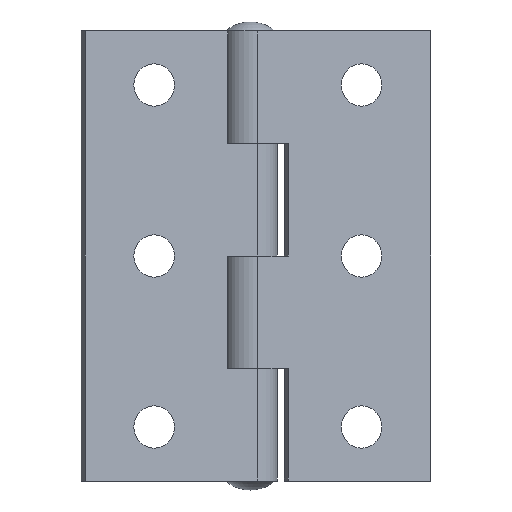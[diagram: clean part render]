
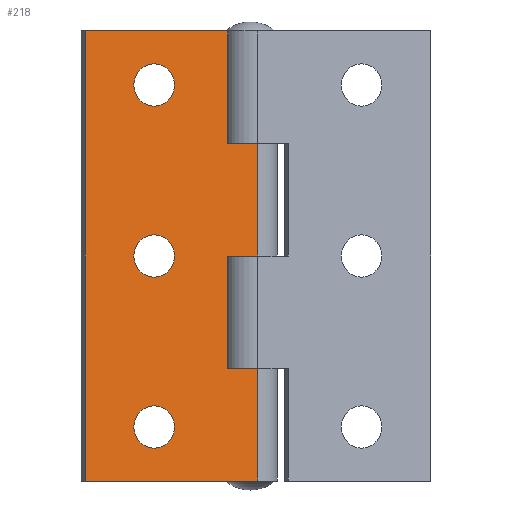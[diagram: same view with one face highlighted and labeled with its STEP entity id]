
A CAD part, front view. The second image highlights one B-rep face of the part: STEP entity #218.
In plain terms, the highlighted planar face has unit normal (0.279, -0.96, 0) as drawn and (0, -1, 0) by its records, which use the part's own axes.
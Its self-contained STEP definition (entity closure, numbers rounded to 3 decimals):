
#7 = CARTESIAN_POINT ( 'NONE',  ( -8.092, -2.333, 3.65 ) ) ;
#9 = ORIENTED_EDGE ( 'NONE', *, *, #223, .F. ) ;
#10 = VERTEX_POINT ( 'NONE', #368 ) ;
#11 = EDGE_LOOP ( 'NONE', ( #24, #21, #175, #173, #19, #170, #167, #166, #9, #27 ) ) ;
#12 = EDGE_LOOP ( 'NONE', ( #174, #26 ) ) ;
#13 = ORIENTED_EDGE ( 'NONE', *, *, #18, .T. ) ;
#17 = VERTEX_POINT ( 'NONE', #502 ) ;
#18 = EDGE_CURVE ( 'NONE', #270, #271, #496, .T. ) ;
#19 = ORIENTED_EDGE ( 'NONE', *, *, #20, .F. ) ;
#20 = EDGE_CURVE ( 'NONE', #17, #221, #497, .T. ) ;
#21 = ORIENTED_EDGE ( 'NONE', *, *, #22, .F. ) ;
#22 = EDGE_CURVE ( 'NONE', #35, #23, #488, .T. ) ;
#23 = VERTEX_POINT ( 'NONE', #431 ) ;
#24 = ORIENTED_EDGE ( 'NONE', *, *, #214, .T. ) ;
#25 = VERTEX_POINT ( 'NONE', #430 ) ;
#26 = ORIENTED_EDGE ( 'NONE', *, *, #284, .T. ) ;
#27 = ORIENTED_EDGE ( 'NONE', *, *, #28, .T. ) ;
#28 = EDGE_CURVE ( 'NONE', #224, #10, #429, .T. ) ;
#34 = ORIENTED_EDGE ( 'NONE', *, *, #157, .T. ) ;
#35 = VERTEX_POINT ( 'NONE', #566 ) ;
#44 = VERTEX_POINT ( 'NONE', #549 ) ;
#48 = VERTEX_POINT ( 'NONE', #545 ) ;
#49 = EDGE_CURVE ( 'NONE', #283, #48, #624, .T. ) ;
#157 = EDGE_CURVE ( 'NONE', #271, #270, #581, .T. ) ;
#165 = EDGE_CURVE ( 'NONE', #171, #168, #853, .T. ) ;
#166 = ORIENTED_EDGE ( 'NONE', *, *, #180, .T. ) ;
#167 = ORIENTED_EDGE ( 'NONE', *, *, #165, .T. ) ;
#168 = VERTEX_POINT ( 'NONE', #963 ) ;
#169 = EDGE_LOOP ( 'NONE', ( #177, #172 ) ) ;
#170 = ORIENTED_EDGE ( 'NONE', *, *, #179, .T. ) ;
#171 = VERTEX_POINT ( 'NONE', #962 ) ;
#172 = ORIENTED_EDGE ( 'NONE', *, *, #49, .T. ) ;
#173 = ORIENTED_EDGE ( 'NONE', *, *, #220, .T. ) ;
#174 = ORIENTED_EDGE ( 'NONE', *, *, #178, .T. ) ;
#175 = ORIENTED_EDGE ( 'NONE', *, *, #219, .T. ) ;
#176 = EDGE_LOOP ( 'NONE', ( #13, #34 ) ) ;
#177 = ORIENTED_EDGE ( 'NONE', *, *, #222, .T. ) ;
#178 = EDGE_CURVE ( 'NONE', #44, #285, #875, .T. ) ;
#179 = EDGE_CURVE ( 'NONE', #17, #171, #870, .T. ) ;
#180 = EDGE_CURVE ( 'NONE', #168, #181, #850, .T. ) ;
#181 = VERTEX_POINT ( 'NONE', #846 ) ;
#214 = EDGE_CURVE ( 'NONE', #10, #23, #835, .T. ) ;
#218 = ADVANCED_FACE ( 'NONE', ( #831, #830, #829, #828 ), #827, .F. ) ;
#219 = EDGE_CURVE ( 'NONE', #35, #25, #825, .T. ) ;
#220 = EDGE_CURVE ( 'NONE', #25, #221, #904, .T. ) ;
#221 = VERTEX_POINT ( 'NONE', #900 ) ;
#222 = EDGE_CURVE ( 'NONE', #48, #283, #899, .T. ) ;
#223 = EDGE_CURVE ( 'NONE', #224, #181, #894, .T. ) ;
#224 = VERTEX_POINT ( 'NONE', #890 ) ;
#270 = VERTEX_POINT ( 'NONE', #972 ) ;
#271 = VERTEX_POINT ( 'NONE', #967 ) ;
#283 = VERTEX_POINT ( 'NONE', #7 ) ;
#284 = EDGE_CURVE ( 'NONE', #285, #44, #1031, .T. ) ;
#285 = VERTEX_POINT ( 'NONE', #1062 ) ;
#368 = CARTESIAN_POINT ( 'NONE',  ( 0.408, -2.333, 37.5 ) ) ;
#426 = DIRECTION ( 'NONE',  ( -1., 0., 0. ) ) ;
#427 = VECTOR ( 'NONE', #426, 1000. ) ;
#428 = CARTESIAN_POINT ( 'NONE',  ( 3.908, -2.333, 37.5 ) ) ;
#429 = LINE ( 'NONE', #428, #427 ) ;
#430 = CARTESIAN_POINT ( 'NONE',  ( -16.092, -2.333, 0. ) ) ;
#431 = CARTESIAN_POINT ( 'NONE',  ( 0.408, -2.333, 50. ) ) ;
#432 = DIRECTION ( 'NONE',  ( 1., 0., 0. ) ) ;
#433 = VECTOR ( 'NONE', #432, 1000. ) ;
#487 = CARTESIAN_POINT ( 'NONE',  ( 3.908, -2.333, 50. ) ) ;
#488 = LINE ( 'NONE', #487, #433 ) ;
#489 = DIRECTION ( 'NONE',  ( 0., 0., -1. ) ) ;
#490 = VECTOR ( 'NONE', #489, 1000. ) ;
#491 = CARTESIAN_POINT ( 'NONE',  ( 3.908, -2.333, 50. ) ) ;
#492 = DIRECTION ( 'NONE',  ( 0., 0., 1. ) ) ;
#493 = DIRECTION ( 'NONE',  ( 0., 1., 0. ) ) ;
#494 = CARTESIAN_POINT ( 'NONE',  ( -8.092, -2.333, 44. ) ) ;
#495 = AXIS2_PLACEMENT_3D ( 'NONE', #494, #493, #492 ) ;
#496 = CIRCLE ( 'NONE', #495, 2.35 ) ;
#497 = LINE ( 'NONE', #491, #490 ) ;
#502 = CARTESIAN_POINT ( 'NONE',  ( 3.908, -2.333, 12.5 ) ) ;
#545 = CARTESIAN_POINT ( 'NONE',  ( -8.092, -2.333, 8.35 ) ) ;
#549 = CARTESIAN_POINT ( 'NONE',  ( -8.092, -2.333, 27.35 ) ) ;
#566 = CARTESIAN_POINT ( 'NONE',  ( -16.092, -2.333, 50. ) ) ;
#577 = DIRECTION ( 'NONE',  ( 0., 0., 1. ) ) ;
#578 = DIRECTION ( 'NONE',  ( 0., 1., 0. ) ) ;
#579 = CARTESIAN_POINT ( 'NONE',  ( -8.092, -2.333, 44. ) ) ;
#580 = AXIS2_PLACEMENT_3D ( 'NONE', #579, #578, #577 ) ;
#581 = CIRCLE ( 'NONE', #580, 2.35 ) ;
#620 = DIRECTION ( 'NONE',  ( 0., 0., 1. ) ) ;
#621 = DIRECTION ( 'NONE',  ( 0., 1., 0. ) ) ;
#622 = CARTESIAN_POINT ( 'NONE',  ( -8.092, -2.333, 6. ) ) ;
#623 = AXIS2_PLACEMENT_3D ( 'NONE', #622, #621, #620 ) ;
#624 = CIRCLE ( 'NONE', #623, 2.35 ) ;
#821 = CARTESIAN_POINT ( 'NONE',  ( -16.092, -2.333, 50. ) ) ;
#822 = DIRECTION ( 'NONE',  ( 0., 0., 1. ) ) ;
#823 = DIRECTION ( 'NONE',  ( 0., 1., 0. ) ) ;
#824 = AXIS2_PLACEMENT_3D ( 'NONE', #826, #823, #822 ) ;
#825 = LINE ( 'NONE', #821, #906 ) ;
#826 = CARTESIAN_POINT ( 'NONE',  ( 3.908, -2.333, 50. ) ) ;
#827 = PLANE ( 'NONE',  #824 ) ;
#828 = FACE_OUTER_BOUND ( 'NONE', #11, .T. ) ;
#829 = FACE_BOUND ( 'NONE', #12, .T. ) ;
#830 = FACE_BOUND ( 'NONE', #169, .T. ) ;
#831 = FACE_BOUND ( 'NONE', #176, .T. ) ;
#832 = DIRECTION ( 'NONE',  ( 0., 0., 1. ) ) ;
#833 = VECTOR ( 'NONE', #832, 1000. ) ;
#834 = CARTESIAN_POINT ( 'NONE',  ( 0.408, -2.333, 50. ) ) ;
#835 = LINE ( 'NONE', #834, #833 ) ;
#846 = CARTESIAN_POINT ( 'NONE',  ( 3.908, -2.333, 25. ) ) ;
#847 = DIRECTION ( 'NONE',  ( 1., 0., 0. ) ) ;
#848 = VECTOR ( 'NONE', #847, 1000. ) ;
#849 = CARTESIAN_POINT ( 'NONE',  ( 0.408, -2.333, 25. ) ) ;
#850 = LINE ( 'NONE', #849, #848 ) ;
#851 = DIRECTION ( 'NONE',  ( -1., 0., 0. ) ) ;
#852 = CARTESIAN_POINT ( 'NONE',  ( 0.408, -2.333, 12.5 ) ) ;
#853 = LINE ( 'NONE', #852, #965 ) ;
#868 = VECTOR ( 'NONE', #851, 1000. ) ;
#869 = CARTESIAN_POINT ( 'NONE',  ( 3.908, -2.333, 12.5 ) ) ;
#870 = LINE ( 'NONE', #869, #868 ) ;
#871 = DIRECTION ( 'NONE',  ( 0., 0., 1. ) ) ;
#872 = DIRECTION ( 'NONE',  ( 0., 1., 0. ) ) ;
#873 = CARTESIAN_POINT ( 'NONE',  ( -8.092, -2.333, 25. ) ) ;
#874 = AXIS2_PLACEMENT_3D ( 'NONE', #873, #872, #871 ) ;
#875 = CIRCLE ( 'NONE', #874, 2.35 ) ;
#890 = CARTESIAN_POINT ( 'NONE',  ( 3.908, -2.333, 37.5 ) ) ;
#891 = DIRECTION ( 'NONE',  ( 0., 0., -1. ) ) ;
#892 = VECTOR ( 'NONE', #891, 1000. ) ;
#893 = CARTESIAN_POINT ( 'NONE',  ( 3.908, -2.333, 50. ) ) ;
#894 = LINE ( 'NONE', #893, #892 ) ;
#895 = DIRECTION ( 'NONE',  ( 0., 0., 1. ) ) ;
#896 = DIRECTION ( 'NONE',  ( 0., 1., 0. ) ) ;
#897 = CARTESIAN_POINT ( 'NONE',  ( -8.092, -2.333, 6. ) ) ;
#898 = AXIS2_PLACEMENT_3D ( 'NONE', #897, #896, #895 ) ;
#899 = CIRCLE ( 'NONE', #898, 2.35 ) ;
#900 = CARTESIAN_POINT ( 'NONE',  ( 3.908, -2.333, 0. ) ) ;
#901 = DIRECTION ( 'NONE',  ( 1., 0., 0. ) ) ;
#902 = VECTOR ( 'NONE', #901, 1000. ) ;
#903 = CARTESIAN_POINT ( 'NONE',  ( 3.908, -2.333, 0. ) ) ;
#904 = LINE ( 'NONE', #903, #902 ) ;
#905 = DIRECTION ( 'NONE',  ( 0., 0., -1. ) ) ;
#906 = VECTOR ( 'NONE', #905, 1000. ) ;
#962 = CARTESIAN_POINT ( 'NONE',  ( 0.408, -2.333, 12.5 ) ) ;
#963 = CARTESIAN_POINT ( 'NONE',  ( 0.408, -2.333, 25. ) ) ;
#964 = DIRECTION ( 'NONE',  ( 0., 0., 1. ) ) ;
#965 = VECTOR ( 'NONE', #964, 1000. ) ;
#967 = CARTESIAN_POINT ( 'NONE',  ( -8.092, -2.333, 41.65 ) ) ;
#972 = CARTESIAN_POINT ( 'NONE',  ( -8.092, -2.333, 46.35 ) ) ;
#1030 = CARTESIAN_POINT ( 'NONE',  ( -8.092, -2.333, 25. ) ) ;
#1031 = CIRCLE ( 'NONE', #1075, 2.35 ) ;
#1062 = CARTESIAN_POINT ( 'NONE',  ( -8.092, -2.333, 22.65 ) ) ;
#1063 = DIRECTION ( 'NONE',  ( 0., 0., 1. ) ) ;
#1064 = DIRECTION ( 'NONE',  ( 0., 1., 0. ) ) ;
#1075 = AXIS2_PLACEMENT_3D ( 'NONE', #1030, #1064, #1063 ) ;
